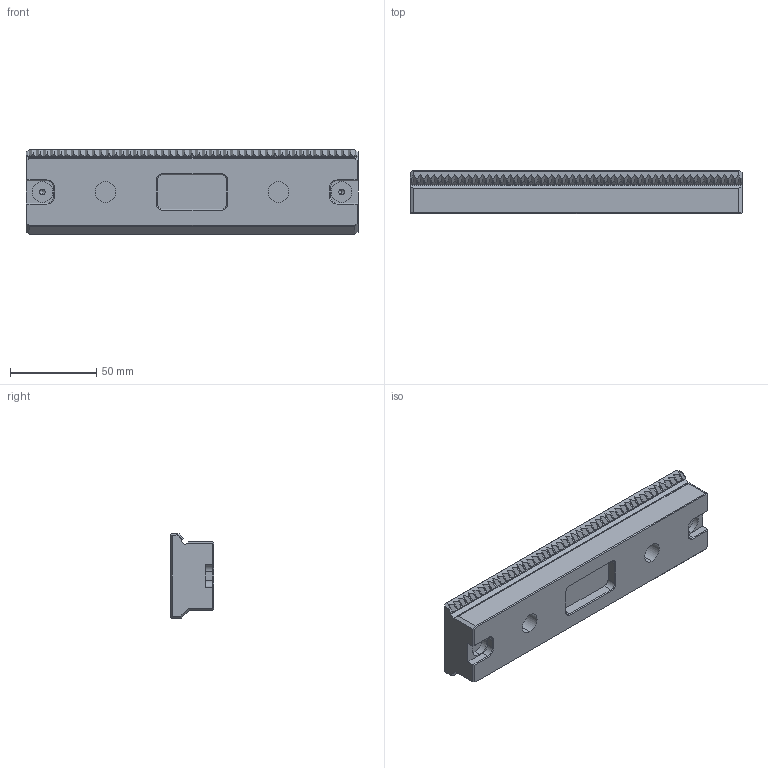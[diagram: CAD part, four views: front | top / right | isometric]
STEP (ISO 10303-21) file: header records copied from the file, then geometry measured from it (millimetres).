
FILE_DESCRIPTION (( 'STEP AP214' ), '1' );
FILE_NAME ('73195.STEP', '2023-12-18T08:00:50', ( '' ), ( '' ), 'SwSTEP 2.0', 'SolidWorks 2021', '' );
FILE_SCHEMA (( 'AUTOMOTIVE_DESIGN' ));
Length unit declared in the file: millimetre
Products named in the file (1): 73195
Bounding box: 192 x 25 x 48.6 mm (x, y, z)
Volume: 184430 mm3; surface area: 34722 mm2
Topology: 3 solids, 3 shells, 554 faces, 1511 edges, 978 vertices
Faces by surface type: plane 438, cylinder 50, bspline 34, cone 32
Entity records: 23381 total; most frequent: CARTESIAN_POINT 3754, ORIENTED_EDGE 2982, DIRECTION 2481, EDGE_CURVE 1491, LINE 1215, VECTOR 1215, VERTEX_POINT 978, AXIS2_PLACEMENT_3D 633
